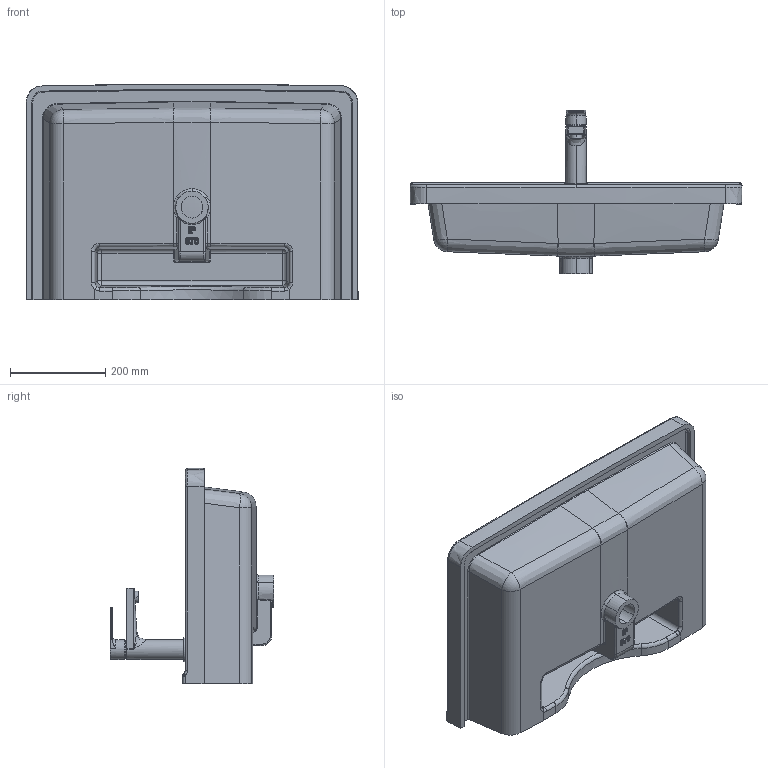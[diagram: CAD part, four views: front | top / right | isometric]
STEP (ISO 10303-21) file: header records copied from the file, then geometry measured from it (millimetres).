
FILE_DESCRIPTION (( 'STEP AP203' ), '1' );
FILE_NAME ('IP070_tasma kanallý.STEP', '2022-10-27T11:18:45', ( '' ), ( '' ), 'SwSTEP 2.0', 'SolidWorks 2021', '' );
FILE_SCHEMA (( 'CONFIG_CONTROL_DESIGN' ));
Products named in the file (1): IP070_tasma kanallý
Bounding box: 696.3 x 343.68 x 451.6 mm (x, y, z)
Volume: 12874042.3 mm3; surface area: 1273383.3 mm2
Topology: 8 solids, 9 shells, 581 faces, 1358 edges, 771 vertices
Faces by surface type: bspline 201, cylinder 175, plane 100, torus 55, sphere 45, cone 5
Entity records: 36571 total; most frequent: CARTESIAN_POINT 24899, ORIENTED_EDGE 2630, DIRECTION 2145, EDGE_CURVE 1315, AXIS2_PLACEMENT_3D 872, VERTEX_POINT 764, EDGE_LOOP 595, ADVANCED_FACE 581
